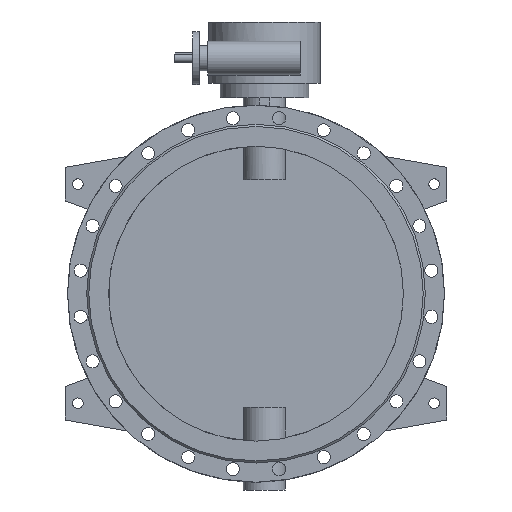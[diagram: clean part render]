
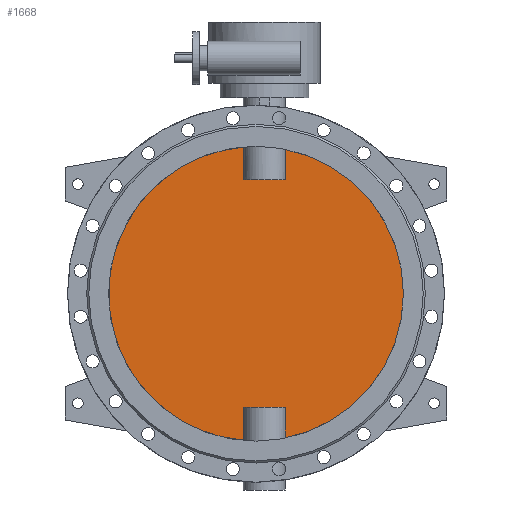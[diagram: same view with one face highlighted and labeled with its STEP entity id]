
A CAD part, front view. The second image highlights one B-rep face of the part: STEP entity #1668.
In plain terms, the highlighted planar face has unit normal (0, -1, 0).
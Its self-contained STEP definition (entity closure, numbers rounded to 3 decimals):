
#1668=ADVANCED_FACE('',(#3500),#3502,.F.);
#3500=FACE_BOUND('',#3501,.T.);
#3501=EDGE_LOOP('',(#4394,#4395,#4396,#4397,#4398,#4399,#4400,#4401));
#3502=PLANE('',#3503);
#3503=AXIS2_PLACEMENT_3D('',#3504,#3505,#3506);
#3504=CARTESIAN_POINT('',(0.,-5.,0.));
#3505=DIRECTION('',(0.,1.,0.));
#3506=DIRECTION('',(1.,0.,0.));
#4394=ORIENTED_EDGE('',*,*,#4841,.T.);
#4395=ORIENTED_EDGE('',*,*,#4847,.T.);
#4396=ORIENTED_EDGE('',*,*,#4848,.T.);
#4397=ORIENTED_EDGE('',*,*,#4849,.T.);
#4398=ORIENTED_EDGE('',*,*,#4843,.T.);
#4399=ORIENTED_EDGE('',*,*,#4850,.T.);
#4400=ORIENTED_EDGE('',*,*,#4851,.T.);
#4401=ORIENTED_EDGE('',*,*,#4852,.T.);
#4841=EDGE_CURVE('',#5577,#5578,#5579,.F.);
#4843=EDGE_CURVE('',#5582,#5580,#5583,.F.);
#4847=EDGE_CURVE('',#5578,#5589,#5590,.T.);
#4848=EDGE_CURVE('',#5589,#5591,#5592,.F.);
#4849=EDGE_CURVE('',#5591,#5582,#5593,.F.);
#4850=EDGE_CURVE('',#5580,#5594,#5595,.F.);
#4851=EDGE_CURVE('',#5594,#5596,#5597,.F.);
#4852=EDGE_CURVE('',#5596,#5577,#5598,.T.);
#5577=VERTEX_POINT('',#8199);
#5578=VERTEX_POINT('',#8200);
#5579=CIRCLE('',#8201,350.);
#5580=VERTEX_POINT('',#8205);
#5582=VERTEX_POINT('',#8247);
#5583=CIRCLE('',#8248,350.);
#5589=VERTEX_POINT('',#8371);
#5590=LINE('',#8372,#8373);
#5591=VERTEX_POINT('',#8375);
#5592=LINE('',#8376,#8377);
#5593=LINE('',#8379,#8380);
#5594=VERTEX_POINT('',#8382);
#5595=LINE('',#8383,#8384);
#5596=VERTEX_POINT('',#8386);
#5597=LINE('',#8387,#8388);
#5598=LINE('',#8390,#8391);
#8199=CARTESIAN_POINT('',(69.749,-5.,-342.98));
#8200=CARTESIAN_POINT('',(69.749,-5.,342.98));
#8201=AXIS2_PLACEMENT_3D('',#8202,#8203,#8204);
#8202=CARTESIAN_POINT('',(0.,-5.,0.));
#8203=DIRECTION('',(0.,1.,0.));
#8204=DIRECTION('',(0.199,0.,0.98));
#8205=CARTESIAN_POINT('',(-29.749,-5.,-348.733));
#8247=CARTESIAN_POINT('',(-29.749,-5.,348.733));
#8248=AXIS2_PLACEMENT_3D('',#8249,#8250,#8251);
#8249=CARTESIAN_POINT('',(0.,-5.,0.));
#8250=DIRECTION('',(0.,1.,0.));
#8251=DIRECTION('',(-0.085,0.,-0.996));
#8371=CARTESIAN_POINT('',(69.749,-5.,270.));
#8372=CARTESIAN_POINT('',(69.749,-5.,342.98));
#8373=VECTOR('',#8374,1.);
#8374=DIRECTION('',(0.,0.,-1.));
#8375=CARTESIAN_POINT('',(-29.749,-5.,270.));
#8376=CARTESIAN_POINT('',(-29.749,-5.,270.));
#8377=VECTOR('',#8378,1.);
#8378=DIRECTION('',(1.,0.,0.));
#8379=CARTESIAN_POINT('',(-29.749,-5.,348.733));
#8380=VECTOR('',#8381,1.);
#8381=DIRECTION('',(0.,0.,-1.));
#8382=CARTESIAN_POINT('',(-29.749,-5.,-270.));
#8383=CARTESIAN_POINT('',(-29.749,-5.,-270.));
#8384=VECTOR('',#8385,1.);
#8385=DIRECTION('',(0.,0.,-1.));
#8386=CARTESIAN_POINT('',(69.749,-5.,-270.));
#8387=CARTESIAN_POINT('',(69.749,-5.,-270.));
#8388=VECTOR('',#8389,1.);
#8389=DIRECTION('',(-1.,0.,0.));
#8390=CARTESIAN_POINT('',(69.749,-5.,-270.));
#8391=VECTOR('',#8392,1.);
#8392=DIRECTION('',(0.,0.,-1.));
